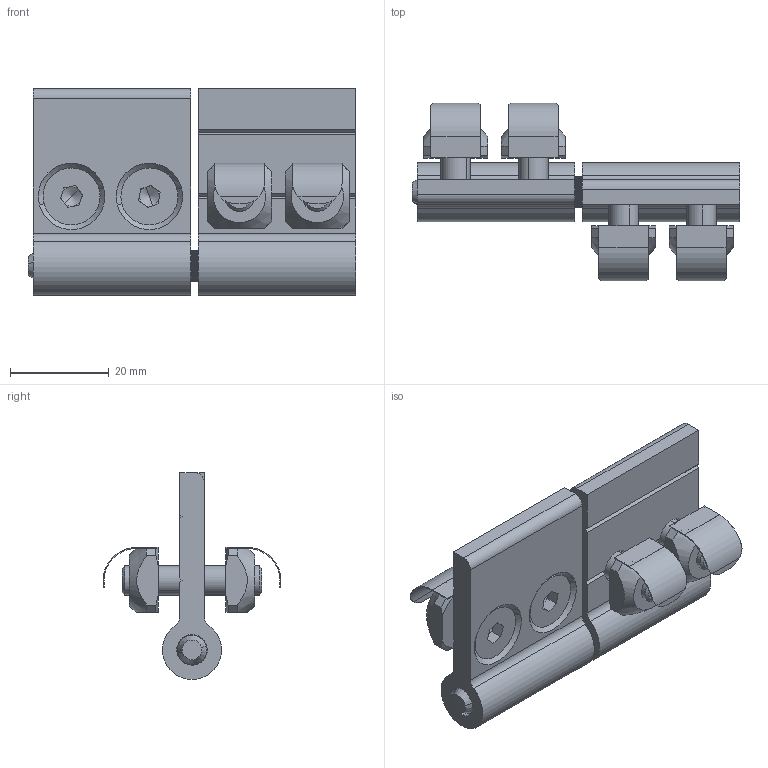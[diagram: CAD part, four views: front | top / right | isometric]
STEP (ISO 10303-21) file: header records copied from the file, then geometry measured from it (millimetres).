
FILE_DESCRIPTION (( 'STEP AP214' ), '1' );
FILE_NAME ('1.4003 Sarana 19-19.STEP', '2025-09-15T08:18:40', ( '' ), ( '' ), 'SwSTEP 2.0', 'SolidWorks 2025', '' );
FILE_SCHEMA (( 'AUTOMOTIVE_DESIGN' ));
Length unit declared in the file: millimetre
Products named in the file (1): 1.4003 Sarana 19-19
Bounding box: 66.5 x 36.09 x 42 mm (x, y, z)
Volume: 20564.7 mm3; surface area: 15356.4 mm2
Topology: 11 solids, 11 shells, 672 faces, 1638 edges, 1052 vertices
Faces by surface type: plane 460, cylinder 136, cone 68, torus 8
Entity records: 27591 total; most frequent: CARTESIAN_POINT 4087, DIRECTION 3364, ORIENTED_EDGE 3260, EDGE_CURVE 1630, AXIS2_PLACEMENT_3D 1193, VERTEX_POINT 1052, VECTOR 978, LINE 978
